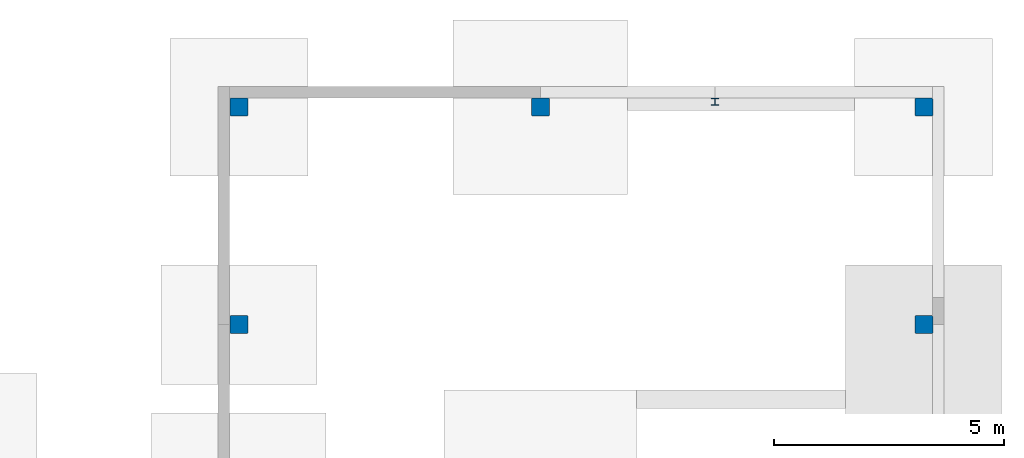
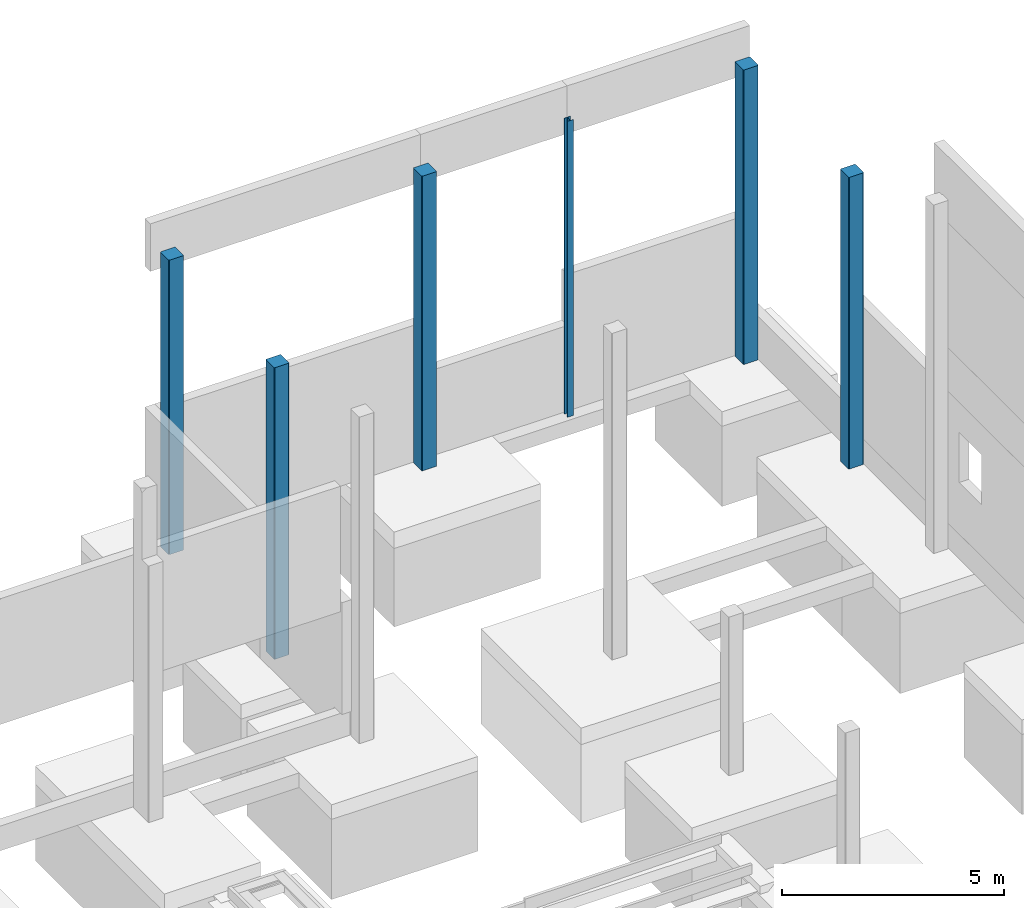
# One storey, part 6 of 12: 6 columns.
"""IFC4X3_ADD2 building model written with IfcOpenShell, lengths in millimetres."""

from ifc_helpers import new_model, si_unit, point, direction, frame, frame_2d, origin_with_axes, place, context, subcontext, project, spatial, polyline, circle_curve, trimmed, segment, composite_curve, outline, extrude, element, save


model = new_model("IFC4X3_ADD2")

# Units and contexts
model_context = context("Model", 3, precision=1e-05, world=origin_with_axes(), true_north=direction((0.0, 1.0)))
body_context = subcontext(model_context, "Body", "Model", "MODEL_VIEW")
ifc_project = project(units=[si_unit("LENGTHUNIT", "METRE", prefix="MILLI"), si_unit("AREAUNIT", "SQUARE_METRE"), si_unit("VOLUMEUNIT", "CUBIC_METRE"), si_unit("PLANEANGLEUNIT", "RADIAN"), si_unit("TIMEUNIT", "SECOND"), si_unit("MASSUNIT", "GRAM")], contexts=[model_context])

# Site, building, storey
site_placement = place(None, origin_with_axes())
site = spatial("IfcSite", under=ifc_project, at=site_placement, Name="Site", CompositionType="ELEMENT")
building_placement = place(site_placement, origin_with_axes())
building = spatial("IfcBuilding", under=site, at=building_placement, Name="IFC Building Story")
storey_placement = place(building_placement, frame((0.0, 0.0, -800.0), z_axis=(0.0, 0.0, 1.0), x_axis=(1.0, 0.0, 0.0)))
storey = spatial("IfcBuildingStorey", under=building, at=storey_placement, Name="FOND 00 (0)", Elevation=-800.0)

# Columns
column_1_placement = place(storey_placement, frame((48116.18863623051, 21424.9996109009, 40.0), z_axis=(0.0, 0.0, 1.0), x_axis=(1.0, 0.0, 0.0)))
element("IfcColumn", 1, at=column_1_placement, inside=storey, Name="COLUMN", ObjectType="EB_CR_390*390*15", context=body_context, shape_type="SweptSolid", body=[
    extrude(outline(polyline([(179.9999999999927, -195.0), (-180.0, -195.0), (-195.0000000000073, -179.9999999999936), (-195.0, 179.9999999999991), (-180.0, 194.9999999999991), (179.9999999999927, 194.9999999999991), (195.0, 179.9999999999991), (195.0, -180.0), (179.9999999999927, -195.0)])), frame((195.0000000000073, 195.0, 0.0), z_axis=(0.0, 0.0, 1.0), x_axis=(1.0, 0.0, 0.0)), (0.0, 0.0, 1.0), 8005.0),
])
column_2_placement = place(storey_placement, frame((33206.1883991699, 21814.9996109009, 40.0), z_axis=(0.0, 0.0, 1.0), x_axis=(0.0, -1.0, 0.0)))
element("IfcColumn", 2, at=column_2_placement, inside=storey, Name="COLUMN", ObjectType="EB_CR_390*390*15", context=body_context, shape_type="SweptSolid", body=[
    extrude(outline(polyline([(195.0, 179.9999999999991), (195.0, -180.0), (179.9999999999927, -195.0), (-180.0, -195.0), (-195.0000000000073, -179.9999999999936), (-195.0, 179.9999999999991), (-180.0, 194.9999999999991), (179.9999999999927, 194.9999999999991), (195.0, 179.9999999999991)])), frame((195.0000000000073, 195.0, 0.0), z_axis=(0.0, 0.0, 1.0), x_axis=(1.0, 0.0, 0.0)), (0.0, 0.0, 1.0), 8000.0),
])
column_3_placement = place(storey_placement, frame((33206.1883474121, 26159.9989624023, 40.0), z_axis=(0.0, 0.0, 1.0), x_axis=(1.0, 0.0, 0.0)))
element("IfcColumn", 3, at=column_3_placement, inside=storey, Name="COLUMN", ObjectType="EB_CR_390*390*15", context=body_context, shape_type="SweptSolid", body=[
    extrude(outline(polyline([(179.9999999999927, -195.0), (-180.0, -195.0), (-195.0000000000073, -179.9999999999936), (-195.0, 179.9999999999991), (-180.0, 194.9999999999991), (179.9999999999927, 194.9999999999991), (195.0, 179.9999999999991), (195.0, -180.0), (179.9999999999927, -195.0)])), frame((195.0000000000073, 195.0, 0.0), z_axis=(0.0, 0.0, 1.0), x_axis=(1.0, 0.0, 0.0)), (0.0, 0.0, 1.0), 8080.0),
])
column_4_placement = place(storey_placement, frame((48116.18887329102, 26549.9989624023, 40.0), z_axis=(0.0, 0.0, 1.0), x_axis=(0.0, -1.0, 0.0)))
element("IfcColumn", 4, at=column_4_placement, inside=storey, Name="COLUMN", ObjectType="EB_CR_390*390*15", context=body_context, shape_type="SweptSolid", body=[
    extrude(outline(polyline([(195.0, 179.9999999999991), (195.0, -180.0), (179.9999999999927, -195.0), (-180.0, -195.0), (-195.0000000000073, -179.9999999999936), (-195.0, 179.9999999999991), (-180.0, 194.9999999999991), (179.9999999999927, 194.9999999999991), (195.0, 179.9999999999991)])), frame((195.0000000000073, 195.0, 0.0), z_axis=(0.0, 0.0, 1.0), x_axis=(1.0, 0.0, 0.0)), (0.0, 0.0, 1.0), 8080.0),
])
column_5_placement = place(storey_placement, frame((39771.1887207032, 26549.9989624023, 40.0), z_axis=(0.0, 0.0, 1.0), x_axis=(0.0, -1.0, 0.0)))
element("IfcColumn", 5, at=column_5_placement, inside=storey, Name="COLUMN", ObjectType="EB_CR_390*390*15", context=body_context, shape_type="SweptSolid", body=[
    extrude(outline(polyline([(195.0, 179.9999999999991), (195.0, -180.0), (179.9999999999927, -195.0), (-180.0, -195.0), (-195.0000000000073, -179.9999999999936), (-195.0, 179.9999999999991), (-180.0, 194.9999999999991), (179.9999999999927, 194.9999999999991), (195.0, 179.9999999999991)])), frame((195.0000000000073, 195.0, 0.0), z_axis=(0.0, 0.0, 1.0), x_axis=(1.0, 0.0, 0.0)), (0.0, 0.0, 1.0), 8087.000000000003),
])
column_6_placement = place(storey_placement, frame((43686.69122545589, 26397.9991588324, 0.0), z_axis=(0.0, 0.0, 1.0), x_axis=(1.0, 0.0, 0.0)))
element("IfcColumn", 6, at=column_6_placement, inside=storey, Name="COLUMN", ObjectType="HEA160", context=body_context, shape_type="SweptSolid", body=[
    extrude(outline(composite_curve([segment(polyline([(80.00000000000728, 75.99999999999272), (80.00000000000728, 66.99999999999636)]), True, "CONTINUOUS"), segment(polyline([(80.00000000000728, 66.99999999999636), (18.00000000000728, 66.99999999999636)]), True, "CONTINUOUS"), segment(trimmed(circle_curve(frame_2d((18.00000000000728, 51.99999999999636), x_axis=(1.0, 0.0)), 15.0), [point((18.00000000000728, 66.99999999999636))], [point((3.000000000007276, 51.99999999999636))], True, "CARTESIAN"), True, "CONTINUOUS"), segment(polyline([(3.000000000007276, 51.99999999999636), (3.000000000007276, -52.00000000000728)]), True, "CONTINUOUS"), segment(trimmed(circle_curve(frame_2d((18.00000000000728, -52.00000000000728), x_axis=(1.0, 0.0)), 15.0), [point((3.000000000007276, -52.00000000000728))], [point((18.00000000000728, -67.00000000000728))], True, "CARTESIAN"), True, "CONTINUOUS"), segment(polyline([(18.00000000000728, -67.00000000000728), (80.00000000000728, -67.00000000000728)]), True, "CONTINUOUS"), segment(polyline([(80.00000000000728, -67.00000000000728), (80.00000000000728, -76.00000000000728)]), True, "CONTINUOUS"), segment(polyline([(80.00000000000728, -76.00000000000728), (-79.99999999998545, -76.00000000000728)]), True, "CONTINUOUS"), segment(polyline([(-79.99999999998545, -76.00000000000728), (-79.99999999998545, -67.00000000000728)]), True, "CONTINUOUS"), segment(polyline([(-79.99999999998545, -67.00000000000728), (-17.99999999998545, -67.00000000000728)]), True, "CONTINUOUS"), segment(trimmed(circle_curve(frame_2d((-17.99999999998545, -52.00000000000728), x_axis=(1.0, 0.0)), 15.0), [point((-17.99999999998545, -67.00000000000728))], [point((-2.999999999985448, -52.00000000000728))], True, "CARTESIAN"), True, "CONTINUOUS"), segment(polyline([(-2.999999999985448, -52.00000000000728), (-2.999999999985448, 51.99999999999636)]), True, "CONTINUOUS"), segment(trimmed(circle_curve(frame_2d((-17.99999999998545, 51.99999999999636), x_axis=(1.0, 0.0)), 15.0), [point((-2.999999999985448, 51.99999999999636))], [point((-17.99999999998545, 66.99999999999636))], True, "CARTESIAN"), True, "CONTINUOUS"), segment(polyline([(-17.99999999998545, 66.99999999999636), (-79.99999999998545, 66.99999999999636)]), True, "CONTINUOUS"), segment(polyline([(-79.99999999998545, 66.99999999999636), (-79.99999999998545, 75.99999999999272)]), True, "CONTINUOUS"), segment(polyline([(-79.99999999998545, 75.99999999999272), (80.00000000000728, 75.99999999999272)]), True, "CONTINUOUS")], self_intersect=False)), frame((79.99999999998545, 76.00000000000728, 0.0), z_axis=(0.0, 0.0, 1.0), x_axis=(1.0, 0.0, 0.0)), (0.0, 0.0, 1.0), 8120.0),
])

save(model, "model.ifc")
